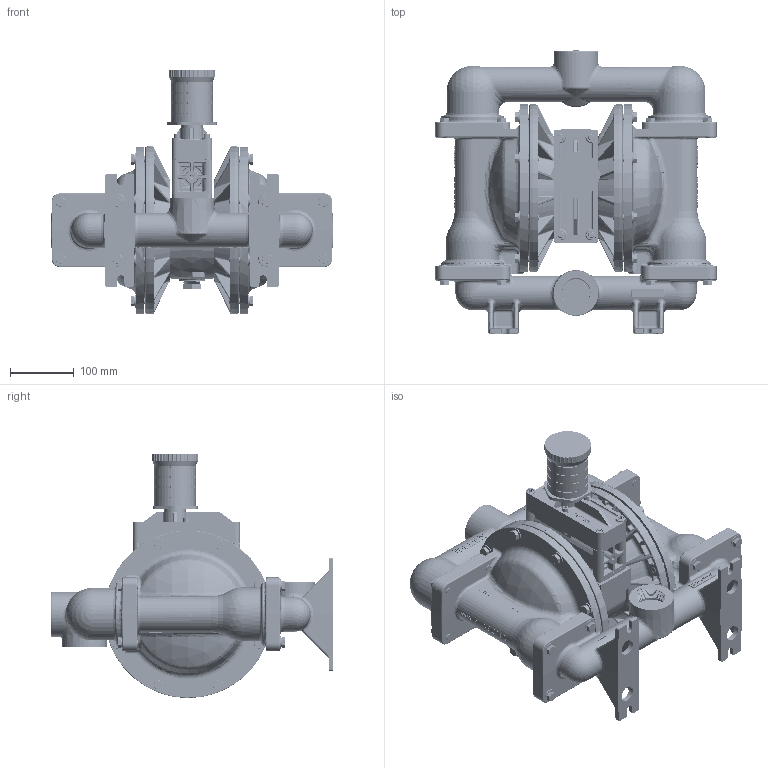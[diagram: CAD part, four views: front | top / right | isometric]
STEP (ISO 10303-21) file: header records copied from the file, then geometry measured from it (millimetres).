
FILE_DESCRIPTION (( 'STEP AP203' ), '1' );
FILE_NAME ('P420_Metal_Top.STEP', '2022-07-04T20:25:54', ( '' ), ( '' ), 'SwSTEP 2.0', 'SolidWorks 2019', '' );
FILE_SCHEMA (( 'CONFIG_CONTROL_DESIGN' ));
Products named in the file (1): P420_Metal_Top
Bounding box: 442.46 x 444.63 x 384.43 mm (x, y, z)
Volume: 14039191.6 mm3; surface area: 1016632.6 mm2
Topology: 1 solids, 1 shells, 10409 faces, 26200 edges, 16093 vertices
Faces by surface type: plane 4690, bspline 2227, cylinder 1531, cone 796, torus 794, sphere 371
Entity records: 564190 total; most frequent: CARTESIAN_POINT 335620, ORIENTED_EDGE 52308, DIRECTION 41221, EDGE_CURVE 26154, VERTEX_POINT 16080, AXIS2_PLACEMENT_3D 14918, LINE 11385, VECTOR 11385
